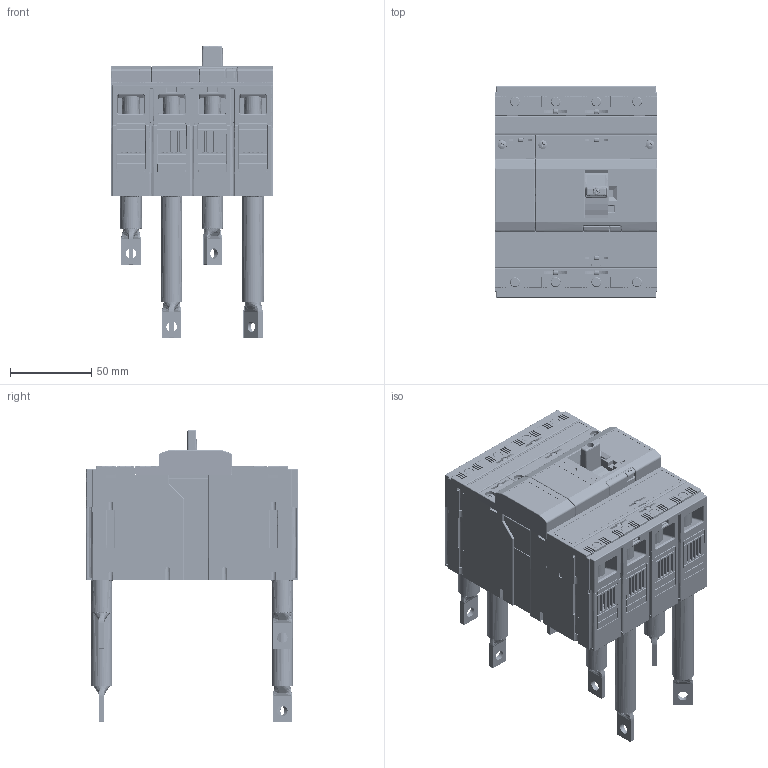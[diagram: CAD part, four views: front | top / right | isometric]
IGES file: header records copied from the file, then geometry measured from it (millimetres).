
Start section: SolidWorks IGES file using analytic representation for surfaces
Global section: file name: U:\14_RD\05_Technical_office\04_Office\Hrdinova\3D modely - IGES\Modeion\BC160NT405_406__CS-BC-A421.IGS; native system: SolidWorks 2011; preprocessor: SolidWorks 2011; author: adhrja3; date: 170615.141120; units: millimetre
Bounding box: 100 x 130 x 179.7 mm (x, y, z)
Surface area: 166761 mm2 (no closed solid volume)
Topology: 0 solids, 0 shells, 4808 faces, 38886 edges, 38826 vertices
Faces by surface type: bspline 3191, revolution 1617
